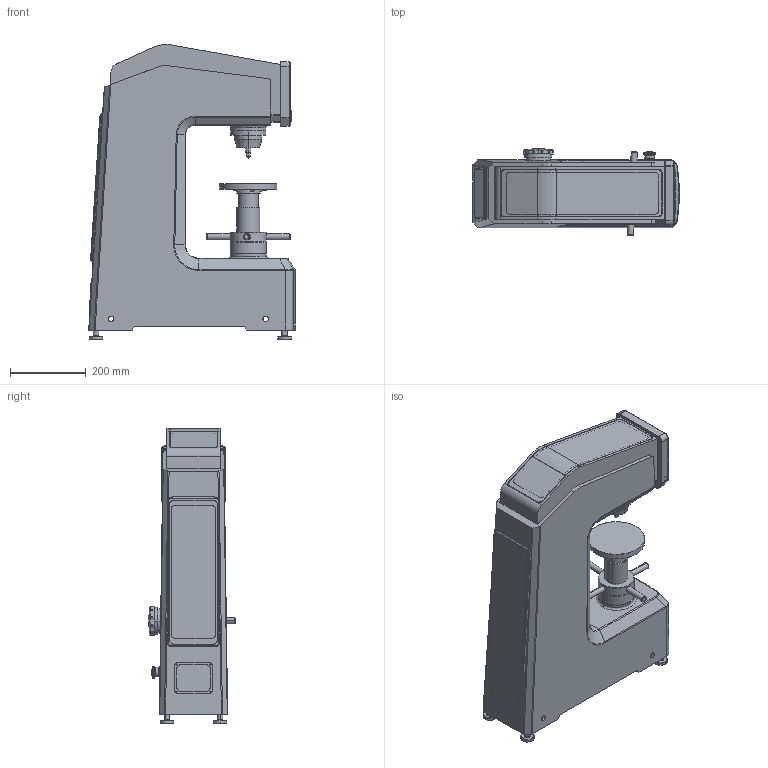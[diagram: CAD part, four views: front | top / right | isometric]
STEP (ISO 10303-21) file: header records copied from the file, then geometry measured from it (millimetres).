
FILE_DESCRIPTION((''),'2;1');
FILE_NAME('DIGIROCK_DR3-1_ASM','2024-11-28T18:00:28',('user'),(''),'CREO PARAMETRIC BY PTC INC, 2023073','CREO PARAMETRIC BY PTC INC, 2023073','');
FILE_SCHEMA(('CONFIG_CONTROL_DESIGN'));
Products named in the file (21): _X2_96F64EF6_X0_-_X2_7535566863; _X2_6025505C5F005173_X0_; _X2_96F64EF6_X0_-_X2_80CC677F_X; _X2_96F64EF6_X0_-_X2_5E9589D287; _X2_96F64EF6_X0_-_X2_4FDD62A459; _X2_96F64EF6_X0_-_X2_781D780162; _X2_96F64EF6_X0_-_X2_63219F2067; _X2_96F64EF6_X0_-_X2_987676D667; _X2_96F64EF6_X0_-_X2_624B8F6E_X; _X2_96F64EF6_X0_-_X2_5DE54F5C57; S-150D-_X2_534A81EA52A8591689C2; _X2_96F64EF6_X0_-_X2_784580F663; _X2_624B52A8_X0_150D-_X2_784580; _X2_624B52A8_X0_150D-_X2_75358D; _X2_624B52A8_X0_IROCK_X2_976267; _X2_96F64EF6_X0_-150D_X2_89E664; _X2_96F64EF6_X0_-_X2_624B52A8_X; _X2_88C5914D4F53_X0_-_X2_624B52_ASM; _X2_96F64EF6_X0_-_X2_538B59344F; _X2_88C5914D_X0_-_X2_624B52A8_X_ASM; DIGIROCK_DR3-1_ASM
Assembly tree (23 placements, depth 4):
  DIGIROCK_DR3-1_ASM
    _X2_88C5914D_X0_-_X2_624B52A8_X_ASM
      _X2_96F64EF6_X0_-_X2_7535566863
      _X2_6025505C5F005173_X0_
      _X2_96F64EF6_X0_-_X2_80CC677F_X
      _X2_96F64EF6_X0_-_X2_5E9589D287  x4
      _X2_96F64EF6_X0_-_X2_4FDD62A459
      _X2_96F64EF6_X0_-_X2_781D780162
      _X2_96F64EF6_X0_-_X2_63219F2067
      _X2_96F64EF6_X0_-_X2_987676D667
      _X2_96F64EF6_X0_-_X2_624B8F6E_X
      _X2_96F64EF6_X0_-_X2_5DE54F5C57
      S-150D-_X2_534A81EA52A8591689C2
      _X2_88C5914D4F53_X0_-_X2_624B52_ASM
        _X2_96F64EF6_X0_-_X2_784580F663
        _X2_624B52A8_X0_150D-_X2_784580
        _X2_624B52A8_X0_150D-_X2_75358D
        _X2_624B52A8_X0_IROCK_X2_976267
        _X2_96F64EF6_X0_-150D_X2_89E664
        _X2_96F64EF6_X0_-_X2_624B52A8_X
      _X2_96F64EF6_X0_-_X2_538B59344F
Bounding box: 544.19 x 228.16 x 777.37 mm (x, y, z)
Volume: 8206738.5 mm3; surface area: 2404210.5 mm2
Topology: 20 solids, 25 shells, 2713 faces, 7335 edges, 4715 vertices
Faces by surface type: plane 1441, cylinder 810, cone 176, bspline 137, torus 132, sphere 16, extrusion 1
Entity records: 99906 total; most frequent: CARTESIAN_POINT 32216, ORIENTED_EDGE 14205, DIRECTION 13692, EDGE_CURVE 7181, VERTEX_POINT 4673, AXIS2_PLACEMENT_3D 4571, VECTOR 4550, LINE 4549
